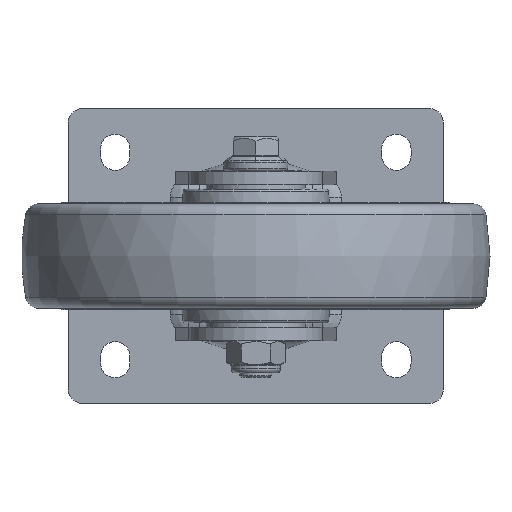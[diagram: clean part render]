
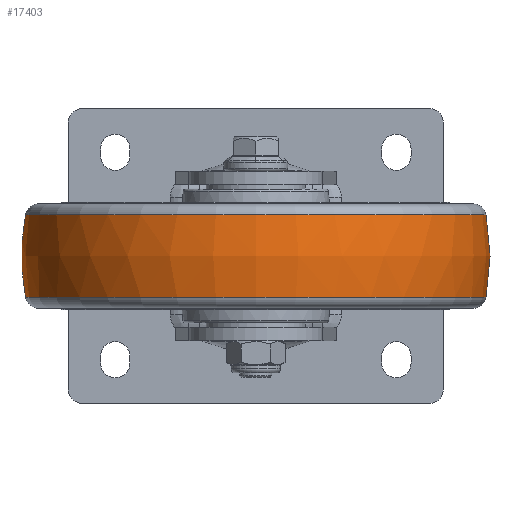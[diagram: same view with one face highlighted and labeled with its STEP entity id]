
A CAD part, front view. The second image highlights one B-rep face of the part: STEP entity #17403.
In plain terms, the highlighted free-form (B-spline) face has degree [2, 2] with [3, 9] control points.
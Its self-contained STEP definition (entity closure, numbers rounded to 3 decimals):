
#23=(
BOUNDED_SURFACE()
B_SPLINE_SURFACE(2,2,((#29235,#29236,#29237,#29238,#29239,#29240,#29241,
#29242,#29243),(#29244,#29245,#29246,#29247,#29248,#29249,#29250,#29251,
#29252),(#29253,#29254,#29255,#29256,#29257,#29258,#29259,#29260,#29261)),
 .UNSPECIFIED.,.F.,.T.,.F.)
B_SPLINE_SURFACE_WITH_KNOTS((3,3),(3,2,2,2,3),(-0.195,0.194),
(-3.142,-1.571,0.,1.571,3.142),
 .UNSPECIFIED.)
GEOMETRIC_REPRESENTATION_ITEM()
RATIONAL_B_SPLINE_SURFACE(((1.,0.707,1.,0.707,1.,
0.707,1.,0.707,1.),(0.981,0.694,
0.981,0.694,0.981,0.694,
0.981,0.694,0.981),(1.,0.707,
1.,0.707,1.,0.707,1.,0.707,1.)))
REPRESENTATION_ITEM('')
SURFACE()
);
#1825=FACE_OUTER_BOUND('',#2857,.T.);
#2857=EDGE_LOOP('',(#15315,#15316,#15317,#15318,#15319,#15320));
#6814=CIRCLE('',#18554,85.984);
#6815=CIRCLE('',#18555,85.984);
#6817=CIRCLE('',#18557,80.);
#6818=CIRCLE('',#18558,85.987);
#6819=CIRCLE('',#18559,85.987);
#8562=VERTEX_POINT('',#29230);
#8563=VERTEX_POINT('',#29231);
#8564=VERTEX_POINT('',#29262);
#8565=VERTEX_POINT('',#29264);
#10848=EDGE_CURVE('',#8562,#8563,#6814,.T.);
#10849=EDGE_CURVE('',#8563,#8562,#6815,.T.);
#10851=EDGE_CURVE('',#8563,#8564,#6817,.T.);
#10852=EDGE_CURVE('',#8565,#8564,#6818,.T.);
#10853=EDGE_CURVE('',#8564,#8565,#6819,.T.);
#15315=ORIENTED_EDGE('',*,*,#10848,.T.);
#15316=ORIENTED_EDGE('',*,*,#10851,.T.);
#15317=ORIENTED_EDGE('',*,*,#10852,.F.);
#15318=ORIENTED_EDGE('',*,*,#10853,.F.);
#15319=ORIENTED_EDGE('',*,*,#10851,.F.);
#15320=ORIENTED_EDGE('',*,*,#10849,.T.);
#17403=ADVANCED_FACE('',(#1825),#23,.F.);
#18554=AXIS2_PLACEMENT_3D('',#29232,#22583,#22584);
#18555=AXIS2_PLACEMENT_3D('',#29233,#22585,#22586);
#18557=AXIS2_PLACEMENT_3D('',#29263,#22589,#22590);
#18558=AXIS2_PLACEMENT_3D('',#29265,#22591,#22592);
#18559=AXIS2_PLACEMENT_3D('',#29266,#22593,#22594);
#22583=DIRECTION('center_axis',(0.,0.,
1.));
#22584=DIRECTION('ref_axis',(1.,0.,0.));
#22585=DIRECTION('center_axis',(0.,0.,
1.));
#22586=DIRECTION('ref_axis',(1.,0.,0.));
#22589=DIRECTION('center_axis',(0.,1.,0.));
#22590=DIRECTION('ref_axis',(-1.,0.,0.));
#22591=DIRECTION('center_axis',(0.,0.,
1.));
#22592=DIRECTION('ref_axis',(1.,0.,0.));
#22593=DIRECTION('center_axis',(0.,0.,
1.));
#22594=DIRECTION('ref_axis',(1.,0.,0.));
#29230=CARTESIAN_POINT('',(85.984,-122.5,-15.47));
#29231=CARTESIAN_POINT('',(-85.984,-122.5,-15.47));
#29232=CARTESIAN_POINT('Origin',(0.,-122.5,
-15.47));
#29233=CARTESIAN_POINT('Origin',(0.,-122.5,
-15.47));
#29235=CARTESIAN_POINT('Ctrl Pts',(-85.984,-122.5,-15.47));
#29236=CARTESIAN_POINT('Ctrl Pts',(-85.984,-208.484,
-15.47));
#29237=CARTESIAN_POINT('Ctrl Pts',(0.,-208.484,
-15.47));
#29238=CARTESIAN_POINT('Ctrl Pts',(85.984,-208.484,-15.47));
#29239=CARTESIAN_POINT('Ctrl Pts',(85.984,-122.5,-15.47));
#29240=CARTESIAN_POINT('Ctrl Pts',(85.984,-36.516,-15.47));
#29241=CARTESIAN_POINT('Ctrl Pts',(0.,-36.516,
-15.47));
#29242=CARTESIAN_POINT('Ctrl Pts',(-85.984,-36.516,
-15.47));
#29243=CARTESIAN_POINT('Ctrl Pts',(-85.984,-122.5,-15.47));
#29244=CARTESIAN_POINT('Ctrl Pts',(-89.033,-122.5,
-0.004));
#29245=CARTESIAN_POINT('Ctrl Pts',(-89.033,-211.533,
-0.004));
#29246=CARTESIAN_POINT('Ctrl Pts',(0.,-211.533,
-0.004));
#29247=CARTESIAN_POINT('Ctrl Pts',(89.033,-211.533,-0.004));
#29248=CARTESIAN_POINT('Ctrl Pts',(89.033,-122.5,-0.004));
#29249=CARTESIAN_POINT('Ctrl Pts',(89.033,-33.467,-0.004));
#29250=CARTESIAN_POINT('Ctrl Pts',(0.,-33.467,
-0.004));
#29251=CARTESIAN_POINT('Ctrl Pts',(-89.033,-33.467,
-0.004));
#29252=CARTESIAN_POINT('Ctrl Pts',(-89.033,-122.5,
-0.004));
#29253=CARTESIAN_POINT('Ctrl Pts',(-85.987,-122.5,
15.463));
#29254=CARTESIAN_POINT('Ctrl Pts',(-85.987,-208.487,15.463));
#29255=CARTESIAN_POINT('Ctrl Pts',(0.,-208.487,
15.463));
#29256=CARTESIAN_POINT('Ctrl Pts',(85.987,-208.487,15.463));
#29257=CARTESIAN_POINT('Ctrl Pts',(85.987,-122.5,15.463));
#29258=CARTESIAN_POINT('Ctrl Pts',(85.987,-36.513,15.463));
#29259=CARTESIAN_POINT('Ctrl Pts',(0.,-36.513,
15.463));
#29260=CARTESIAN_POINT('Ctrl Pts',(-85.987,-36.513,
15.463));
#29261=CARTESIAN_POINT('Ctrl Pts',(-85.987,-122.5,
15.463));
#29262=CARTESIAN_POINT('',(-85.987,-122.5,15.463));
#29263=CARTESIAN_POINT('Origin',(-7.495,-122.5,0.004));
#29264=CARTESIAN_POINT('',(85.987,-122.5,15.463));
#29265=CARTESIAN_POINT('Origin',(0.,-122.5,
15.463));
#29266=CARTESIAN_POINT('Origin',(0.,-122.5,
15.463));
